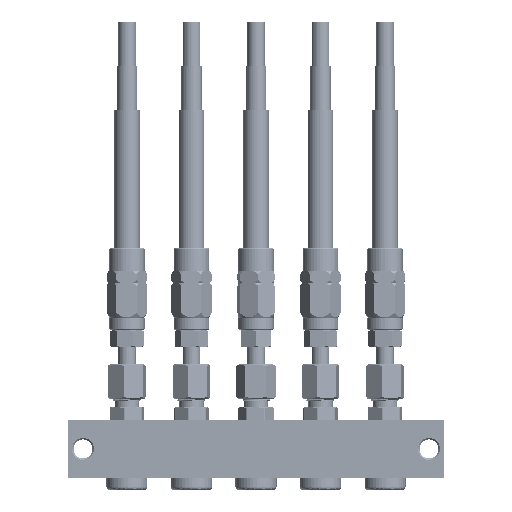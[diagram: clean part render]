
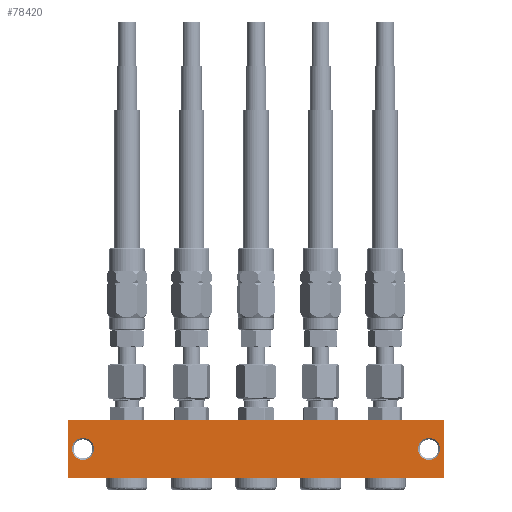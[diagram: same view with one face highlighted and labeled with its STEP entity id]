
A CAD part, front view. The second image highlights one B-rep face of the part: STEP entity #78420.
In plain terms, the highlighted planar face has unit normal (0, -1, 0).
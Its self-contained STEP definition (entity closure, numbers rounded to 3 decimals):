
#1019 = VECTOR ( 'NONE', #74395, 1000. ) ;
#1040 = DIRECTION ( 'NONE',  ( 0., 0., -1. ) ) ;
#3804 = LINE ( 'NONE', #43680, #1019 ) ;
#4858 = AXIS2_PLACEMENT_3D ( 'NONE', #14004, #7544, #26924 ) ;
#7106 = ORIENTED_EDGE ( 'NONE', *, *, #20285, .T. ) ;
#7544 = DIRECTION ( 'NONE',  ( 0., 1., 0. ) ) ;
#8660 = CARTESIAN_POINT ( 'NONE',  ( 64., 0., -10. ) ) ;
#9716 = CARTESIAN_POINT ( 'NONE',  ( -64., 0., -10. ) ) ;
#9933 = VERTEX_POINT ( 'NONE', #65082 ) ;
#11061 = FACE_OUTER_BOUND ( 'NONE', #40360, .T. ) ;
#11458 = CARTESIAN_POINT ( 'NONE',  ( 64., 0., 10. ) ) ;
#13230 = VERTEX_POINT ( 'NONE', #8660 ) ;
#13326 = PLANE ( 'NONE',  #53845 ) ;
#13473 = LINE ( 'NONE', #24026, #52510 ) ;
#13592 = ORIENTED_EDGE ( 'NONE', *, *, #73212, .T. ) ;
#14004 = CARTESIAN_POINT ( 'NONE',  ( -59., 0., 0. ) ) ;
#17065 = DIRECTION ( 'NONE',  ( 0., 0., 1. ) ) ;
#17967 = DIRECTION ( 'NONE',  ( 0., 0., -1. ) ) ;
#18086 = VERTEX_POINT ( 'NONE', #9716 ) ;
#18148 = CARTESIAN_POINT ( 'NONE',  ( 59., 0., 3.75 ) ) ;
#20023 = CARTESIAN_POINT ( 'NONE',  ( 64., 0., 10. ) ) ;
#20285 = EDGE_CURVE ( 'NONE', #60937, #18086, #13473, .T. ) ;
#22712 = CARTESIAN_POINT ( 'NONE',  ( 59., 0., 0. ) ) ;
#24026 = CARTESIAN_POINT ( 'NONE',  ( -64., 0., 10. ) ) ;
#24185 = CIRCLE ( 'NONE', #4858, 3.75 ) ;
#25496 = EDGE_LOOP ( 'NONE', ( #31756 ) ) ;
#25859 = DIRECTION ( 'NONE',  ( 0., 0., 1. ) ) ;
#26924 = DIRECTION ( 'NONE',  ( 0., 0., 1. ) ) ;
#28476 = EDGE_CURVE ( 'NONE', #73543, #73543, #24185, .T. ) ;
#29656 = FACE_BOUND ( 'NONE', #57343, .T. ) ;
#30579 = VECTOR ( 'NONE', #49395, 1000. ) ;
#31756 = ORIENTED_EDGE ( 'NONE', *, *, #32611, .T. ) ;
#32611 = EDGE_CURVE ( 'NONE', #79605, #79605, #53970, .T. ) ;
#33656 = EDGE_CURVE ( 'NONE', #60937, #9933, #3804, .T. ) ;
#36098 = ORIENTED_EDGE ( 'NONE', *, *, #33656, .F. ) ;
#36662 = CARTESIAN_POINT ( 'NONE',  ( -64., 0., 10. ) ) ;
#36860 = LINE ( 'NONE', #62692, #30579 ) ;
#40360 = EDGE_LOOP ( 'NONE', ( #13592, #67284, #36098, #7106 ) ) ;
#43680 = CARTESIAN_POINT ( 'NONE',  ( 64., 0., 10. ) ) ;
#48252 = DIRECTION ( 'NONE',  ( 0., 1., 0. ) ) ;
#49395 = DIRECTION ( 'NONE',  ( 1., 0., 0. ) ) ;
#52510 = VECTOR ( 'NONE', #17967, 1000. ) ;
#53437 = DIRECTION ( 'NONE',  ( 0., 1., 0. ) ) ;
#53845 = AXIS2_PLACEMENT_3D ( 'NONE', #11458, #48252, #25859 ) ;
#53970 = CIRCLE ( 'NONE', #74604, 3.75 ) ;
#56173 = FACE_BOUND ( 'NONE', #25496, .T. ) ;
#57343 = EDGE_LOOP ( 'NONE', ( #63394 ) ) ;
#60103 = VECTOR ( 'NONE', #1040, 1000. ) ;
#60937 = VERTEX_POINT ( 'NONE', #36662 ) ;
#62692 = CARTESIAN_POINT ( 'NONE',  ( 64., 0., -10. ) ) ;
#63276 = LINE ( 'NONE', #20023, #60103 ) ;
#63394 = ORIENTED_EDGE ( 'NONE', *, *, #28476, .T. ) ;
#65082 = CARTESIAN_POINT ( 'NONE',  ( 64., 0., 10. ) ) ;
#66255 = EDGE_CURVE ( 'NONE', #9933, #13230, #63276, .T. ) ;
#67284 = ORIENTED_EDGE ( 'NONE', *, *, #66255, .F. ) ;
#73212 = EDGE_CURVE ( 'NONE', #18086, #13230, #36860, .T. ) ;
#73543 = VERTEX_POINT ( 'NONE', #79214 ) ;
#74395 = DIRECTION ( 'NONE',  ( 1., 0., 0. ) ) ;
#74604 = AXIS2_PLACEMENT_3D ( 'NONE', #22712, #53437, #17065 ) ;
#78420 = ADVANCED_FACE ( 'NONE', ( #56173, #29656, #11061 ), #13326, .F. ) ;
#79214 = CARTESIAN_POINT ( 'NONE',  ( -59., 0., 3.75 ) ) ;
#79605 = VERTEX_POINT ( 'NONE', #18148 ) ;
